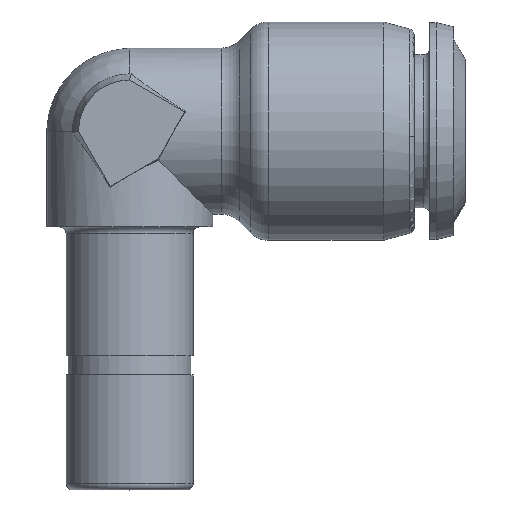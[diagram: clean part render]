
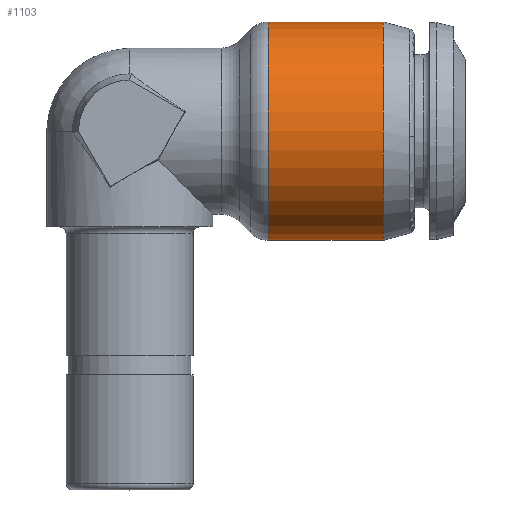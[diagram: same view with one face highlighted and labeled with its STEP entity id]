
A CAD part, top view. The second image highlights one B-rep face of the part: STEP entity #1103.
In plain terms, the highlighted cylindrical face has radius 8.55 mm (diameter 17.1 mm), a partial arc.
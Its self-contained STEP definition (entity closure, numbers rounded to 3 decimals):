
#167 = DIRECTION ( 'NONE',  ( 1., 0., 0. ) ) ;
#211 = CIRCLE ( 'NONE', #6576, 8.55 ) ;
#236 = DIRECTION ( 'NONE',  ( 1., 0., 0. ) ) ;
#401 = EDGE_CURVE ( 'NONE', #2058, #692, #7026, .T. ) ;
#442 = CIRCLE ( 'NONE', #4038, 8.55 ) ;
#524 = LINE ( 'NONE', #5596, #2957 ) ;
#692 = VERTEX_POINT ( 'NONE', #2103 ) ;
#1103 = ADVANCED_FACE ( 'NONE', ( #5876 ), #3469, .T. ) ;
#1169 = CARTESIAN_POINT ( 'NONE',  ( 10.878, 0., 0. ) ) ;
#1393 = EDGE_LOOP ( 'NONE', ( #3315, #3561, #1482, #3692 ) ) ;
#1482 = ORIENTED_EDGE ( 'NONE', *, *, #5850, .F. ) ;
#1585 = CARTESIAN_POINT ( 'NONE',  ( 10.878, -8.55, 0. ) ) ;
#1661 = CARTESIAN_POINT ( 'NONE',  ( 10.878, 8.55, 0. ) ) ;
#2048 = VERTEX_POINT ( 'NONE', #1585 ) ;
#2058 = VERTEX_POINT ( 'NONE', #1661 ) ;
#2103 = CARTESIAN_POINT ( 'NONE',  ( 19.88, 8.55, 0. ) ) ;
#2289 = DIRECTION ( 'NONE',  ( 1., 0., 0. ) ) ;
#2462 = DIRECTION ( 'NONE',  ( 1., 0., 0. ) ) ;
#2957 = VECTOR ( 'NONE', #2289, 1000. ) ;
#3315 = ORIENTED_EDGE ( 'NONE', *, *, #4769, .T. ) ;
#3469 = CYLINDRICAL_SURFACE ( 'NONE', #5551, 8.55 ) ;
#3561 = ORIENTED_EDGE ( 'NONE', *, *, #4582, .T. ) ;
#3692 = ORIENTED_EDGE ( 'NONE', *, *, #401, .F. ) ;
#4038 = AXIS2_PLACEMENT_3D ( 'NONE', #1169, #4261, #5543 ) ;
#4261 = DIRECTION ( 'NONE',  ( 1., 0., 0. ) ) ;
#4538 = CARTESIAN_POINT ( 'NONE',  ( 21., 8.55, 0. ) ) ;
#4582 = EDGE_CURVE ( 'NONE', #2048, #5164, #524, .T. ) ;
#4769 = EDGE_CURVE ( 'NONE', #2058, #2048, #442, .T. ) ;
#5164 = VERTEX_POINT ( 'NONE', #6475 ) ;
#5344 = CARTESIAN_POINT ( 'NONE',  ( 21., 0., 0. ) ) ;
#5514 = CARTESIAN_POINT ( 'NONE',  ( 19.88, 0., 0. ) ) ;
#5543 = DIRECTION ( 'NONE',  ( 0., 1., 0. ) ) ;
#5551 = AXIS2_PLACEMENT_3D ( 'NONE', #5344, #236, #5998 ) ;
#5596 = CARTESIAN_POINT ( 'NONE',  ( 21., -8.55, 0. ) ) ;
#5850 = EDGE_CURVE ( 'NONE', #692, #5164, #211, .T. ) ;
#5876 = FACE_OUTER_BOUND ( 'NONE', #1393, .T. ) ;
#5998 = DIRECTION ( 'NONE',  ( 0., 1., 0. ) ) ;
#6475 = CARTESIAN_POINT ( 'NONE',  ( 19.88, -8.55, 0. ) ) ;
#6576 = AXIS2_PLACEMENT_3D ( 'NONE', #5514, #2462, #6800 ) ;
#6596 = VECTOR ( 'NONE', #167, 1000. ) ;
#6800 = DIRECTION ( 'NONE',  ( 0., 1., 0. ) ) ;
#7026 = LINE ( 'NONE', #4538, #6596 ) ;
